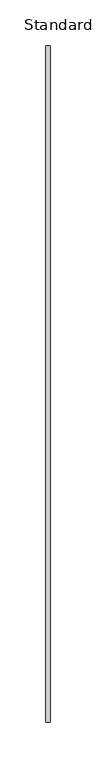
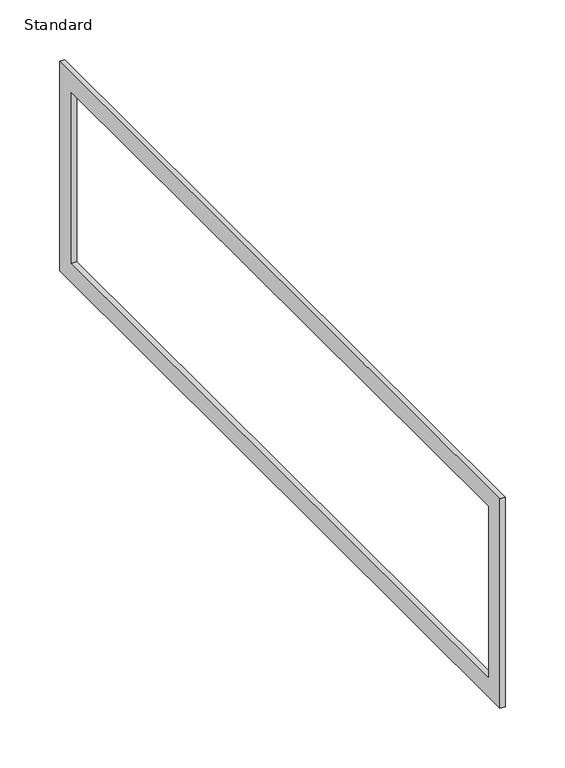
"""IFC4 building model written with IfcOpenShell, lengths in millimetres: duct fitting geometry, Flansch rechteck : Standard."""

import ifcopenshell
import ifcopenshell.guid

model = None  # the IFC model being written
_history = None  # IfcOwnerHistory: only IFC2X3 demands one
_inside = {}  # id of a spatial element -> (the spatial element, [elements in it])
_under = {}  # id of a project, library or spatial element -> (it, [spatial elements below it])
_declared = {}  # id of a project -> (the project, [libraries it declares])
_typed = {}  # id of a type object -> (the type object, [elements of that type])
_made_of = {}  # id of a material, layer set ... -> (it, [elements and type objects made of it])


def new_model(schema):
    """Start an empty IFC model of exactly this schema.

    Asked for "IFC4X3", IfcOpenShell would pick the latest addendum, in which some entities
    have other attributes; the version numbers below select the first issue.
    IFC2X3 requires an IfcOwnerHistory on every rooted entity: one is made here for all.
    """
    global model, _history
    if schema == "IFC4X3":
        model = ifcopenshell.file(schema_version=(4, 3, 0, 0))
    else:
        model = ifcopenshell.file(schema=schema)
    _inside.clear()
    _under.clear()
    _declared.clear()
    _typed.clear()
    _made_of.clear()
    _history = None
    if model.schema == "IFC2X3":
        org = make("IfcOrganization", Name="unknown")
        user = make(
            "IfcPersonAndOrganization",
            ThePerson=make("IfcPerson", FamilyName="unknown"),
            TheOrganization=org,
        )
        app = make(
            "IfcApplication",
            ApplicationDeveloper=org,
            Version="unknown",
            ApplicationFullName="unknown",
            ApplicationIdentifier="unknown",
        )
        _history = make(
            "IfcOwnerHistory",
            OwningUser=user,
            OwningApplication=app,
            ChangeAction="ADDED",
            CreationDate=0,
        )
    return model


def make(cls, **values):
    """One entity of the class cls with the attributes given. An attribute that is None is left unset."""
    return model.create_entity(
        cls, **{name: value for name, value in values.items() if value is not None}
    )


def rooted(cls, **values):
    """An entity with a GlobalId (a new one), such as an element, a storey or a relation."""
    return make(cls, GlobalId=ifcopenshell.guid.new(), OwnerHistory=_history, **values)


def si_unit(unit_type, name, prefix=None):
    """IfcSIUnit, for example si_unit("LENGTHUNIT", "METRE", prefix="MILLI")."""
    return make("IfcSIUnit", UnitType=unit_type, Prefix=prefix, Name=name)


def assignment(units):
    """IfcUnitAssignment: the units of a project."""
    return None if units is None else make("IfcUnitAssignment", Units=units)


def point(xyz):
    """IfcCartesianPoint."""
    return None if xyz is None else make("IfcCartesianPoint", Coordinates=xyz)


def direction(xyz):
    """IfcDirection."""
    return None if xyz is None else make("IfcDirection", DirectionRatios=xyz)


def frame(location, z_axis=None, x_axis=None):
    """IfcAxis2Placement3D, a coordinate frame: its origin and axes. An axis left out is left unset."""
    return make(
        "IfcAxis2Placement3D",
        Location=point(location),
        Axis=direction(z_axis),
        RefDirection=direction(x_axis),
    )


def origin():
    """The frame at (0, 0, 0) with its axes left unset."""
    return frame((0.0, 0.0, 0.0))


def place(relative_to, where):
    """IfcLocalPlacement: puts the frame where relative to a parent placement (None: the world)."""
    return make(
        "IfcLocalPlacement", PlacementRelTo=relative_to, RelativePlacement=where
    )


def context(
    kind, dimensions, precision=None, world=None, true_north=None, identifier=None
):
    """IfcGeometricRepresentationContext, for example the 3D "Model" context."""
    return make(
        "IfcGeometricRepresentationContext",
        ContextIdentifier=identifier,
        ContextType=kind,
        CoordinateSpaceDimension=dimensions,
        Precision=precision,
        WorldCoordinateSystem=world,
        TrueNorth=true_north,
    )


def project(units=None, contexts=None):
    """IfcProject with its units and contexts."""
    return rooted(
        "IfcProject",
        Name="project",
        RepresentationContexts=contexts,
        UnitsInContext=assignment(units),
    )


def spatial(cls, under=None, at=None, **own):
    """A site, building, storey or space (cls), placed at a placement, below another one or the project."""
    s = rooted(cls, ObjectPlacement=at, **own)
    if under is not None:
        _under.setdefault(under.id(), (under, []))[1].append(s)
    return s


def polyline(points):
    """IfcPolyline through the points."""
    return make("IfcPolyline", Points=[point(p) for p in points])


def outline(outer, holes=None, kind="AREA"):
    """IfcArbitraryClosedProfileDef: a profile drawn as a closed curve; with holes, ...WithVoids."""
    if holes is None:
        return make("IfcArbitraryClosedProfileDef", ProfileType=kind, OuterCurve=outer)
    return make(
        "IfcArbitraryProfileDefWithVoids",
        ProfileType=kind,
        OuterCurve=outer,
        InnerCurves=holes,
    )


def extrude(swept, where, along, depth):
    """IfcExtrudedAreaSolid: the profile swept, set in the frame where, extruded along a direction by depth."""
    return make(
        "IfcExtrudedAreaSolid",
        SweptArea=swept,
        Position=where,
        ExtrudedDirection=direction(along),
        Depth=depth,
    )


def shape(context_of_items, identifier, shape_type, items):
    """IfcShapeRepresentation: the items that make up one representation, for example the "Body"."""
    return make(
        "IfcShapeRepresentation",
        ContextOfItems=context_of_items,
        RepresentationIdentifier=identifier,
        RepresentationType=shape_type,
        Items=items,
    )


def source(mapping_origin, context_of_items, identifier, shape_type, items):
    """IfcRepresentationMap: a shape defined once, which mapped items show again and again."""
    return make(
        "IfcRepresentationMap",
        MappingOrigin=mapping_origin,
        MappedRepresentation=shape(context_of_items, identifier, shape_type, items),
    )


def transform(
    local_origin,
    x_axis=None,
    y_axis=None,
    z_axis=None,
    scale=None,
    scale2=None,
    scale3=None,
    uniform=True,
):
    """IfcCartesianTransformationOperator3D, or its non-uniform kind. x_axis, y_axis, z_axis: its Axis1, 2, 3."""
    if uniform:
        return make(
            "IfcCartesianTransformationOperator3D",
            Axis1=direction(x_axis),
            Axis2=direction(y_axis),
            LocalOrigin=point(local_origin),
            Scale=scale,
            Axis3=direction(z_axis),
        )
    return make(
        "IfcCartesianTransformationOperator3DnonUniform",
        Axis1=direction(x_axis),
        Axis2=direction(y_axis),
        LocalOrigin=point(local_origin),
        Scale=scale,
        Axis3=direction(z_axis),
        Scale2=scale2,
        Scale3=scale3,
    )


def mapped(mapping_source, mapping_target):
    """IfcMappedItem: shows the shape of a source again, moved by a transform."""
    return make(
        "IfcMappedItem", MappingSource=mapping_source, MappingTarget=mapping_target
    )


def made_of(thing, what):
    """Note that an element or type object is made of a material, layer set ...; save() writes the relation."""
    if what is not None:
        _made_of.setdefault(what.id(), (what, []))[1].append(thing)
    return thing


def element(
    cls,
    number,
    at=None,
    inside=None,
    cuts=None,
    type_object=None,
    material=None,
    context=None,
    identifier="Body",
    shape_type=None,
    held_by="IfcProductDefinitionShape",
    body=None,
    shapes=None,
    **own,
):
    """One element of the class cls, such as IfcWall. Its Tag is "e" and its number.

    at: its placement. inside: the storey or other place that contains it. cuts: it is an
    opening in that element (IfcRelVoidsElement). A single representation is given by context,
    identifier, shape_type and body (its items); several are given by shapes. held_by: the class
    of the entity that holds the representations. save() writes the other relations.
    """
    e = rooted(cls, Tag="e%d" % number, ObjectPlacement=at, **own)
    if body is not None:
        shapes = [shape(context, identifier, shape_type, body)]
    if shapes is not None:
        e.Representation = make(held_by, Representations=shapes)
    if inside is not None:
        _inside.setdefault(inside.id(), (inside, []))[1].append(e)
    if cuts is not None:
        rooted(
            "IfcRelVoidsElement", RelatingBuildingElement=cuts, RelatedOpeningElement=e
        )
    if type_object is not None:
        _typed.setdefault(type_object.id(), (type_object, []))[1].append(e)
    return made_of(e, material)


def aggregate(whole, parts):
    """IfcRelAggregates: a whole, such as a stair, and the parts it consists of."""
    return rooted("IfcRelAggregates", RelatingObject=whole, RelatedObjects=parts)


def save(model, path):
    """Write the relations noted so far, then the file.

    IfcRelAggregates (storeys below a building ...), IfcRelContainedInSpatialStructure (elements
    in a storey), IfcRelDefinesByType, IfcRelAssociatesMaterial and IfcRelDeclares: one each for
    every whole, place, type object, material and project.
    """
    for whole, parts in _under.values():
        aggregate(whole, parts)
    for where, things in _inside.values():
        rooted(
            "IfcRelContainedInSpatialStructure",
            RelatedElements=things,
            RelatingStructure=where,
        )
    for kind, things in _typed.values():
        rooted("IfcRelDefinesByType", RelatedObjects=things, RelatingType=kind)
    for what, things in _made_of.values():
        rooted("IfcRelAssociatesMaterial", RelatedObjects=things, RelatingMaterial=what)
    for by, libraries in _declared.values():
        rooted("IfcRelDeclares", RelatingContext=by, RelatedDefinitions=libraries)
    model.write(path)


def standard_ae849d8b(model_context):
    return source(origin(), model_context, "Body", "SweptSolid", [
        extrude(outline(polyline([(-370.0, 107.5), (370.0, 107.5), (370.0, -107.5), (-370.0, -107.5), (-370.0, 107.5)]), holes=[polyline([(-350.0, 87.5), (-350.0, -87.5), (350.0, -87.5), (350.0, 87.5), (-350.0, 87.5)])]), frame((0.0, 0.0, 0.0), z_axis=(1.0, 0.0, 0.0), x_axis=(0.0, 1.0, 0.0)), (0.0, 0.0, 1.0), 5.0),
    ])


if __name__ == "__main__":
    model = new_model("IFC4")
    model_context = context("Model", 3, world=origin())
    ifc_project = project(units=[si_unit("LENGTHUNIT", "METRE", prefix="MILLI")], contexts=[model_context])
    site = spatial("IfcSite", under=ifc_project)
    building = spatial("IfcBuilding", under=site)
    placement = place(None, origin())
    standard_shape = standard_ae849d8b(model_context)
    element("IfcDuctFitting", 1, ObjectType="Flansch rechteck : Standard", at=placement, inside=building, context=model_context, shape_type="MappedRepresentation", body=[
        mapped(standard_shape, transform((0.0, 0.0, 0.0), x_axis=(1.0, 0.0, 0.0), y_axis=(0.0, 1.0, 0.0), z_axis=(0.0, 0.0, 1.0))),
    ])
    save(model, "model.ifc")
